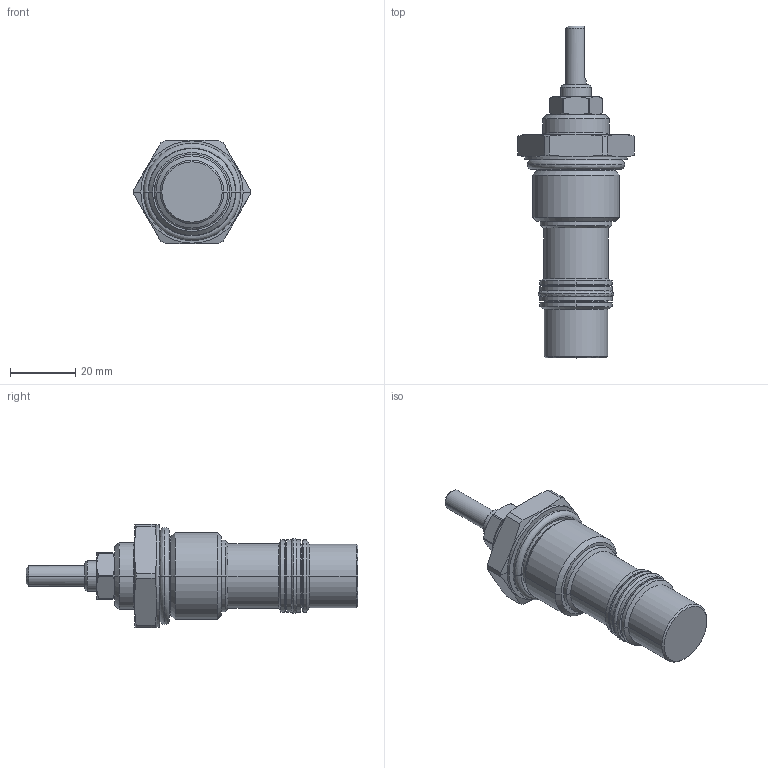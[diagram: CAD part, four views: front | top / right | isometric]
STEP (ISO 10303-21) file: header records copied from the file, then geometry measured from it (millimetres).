
FILE_DESCRIPTION((''),'2;1');
FILE_NAME('5423400_SW0001','2009-02-03T',('jcs'),(''),'PRO/ENGINEER BY PARAMETRIC TECHNOLOGY CORPORATION, 2008010','PRO/ENGINEER BY PARAMETRIC TECHNOLOGY CORPORATION, 2008010','');
FILE_SCHEMA(('CONFIG_CONTROL_DESIGN'));
Length unit declared in the file: inch
Products named in the file (1): 5423400_SW0001
Bounding box: 35.81 x 102.11 x 31.75 mm (x, y, z)
Volume: 34608 mm3; surface area: 9768.3 mm2
Topology: 3 solids, 4 shells, 140 faces, 319 edges, 191 vertices
Faces by surface type: cylinder 44, cone 36, plane 26, torus 18, revolution 16
Entity records: 4527 total; most frequent: CARTESIAN_POINT 1302, DIRECTION 703, ORIENTED_EDGE 638, EDGE_CURVE 319, AXIS2_PLACEMENT_3D 298, VERTEX_POINT 191, CIRCLE 174, EDGE_LOOP 150
